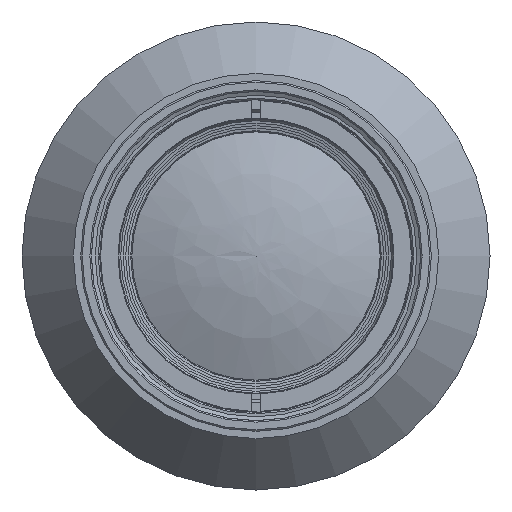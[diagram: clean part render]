
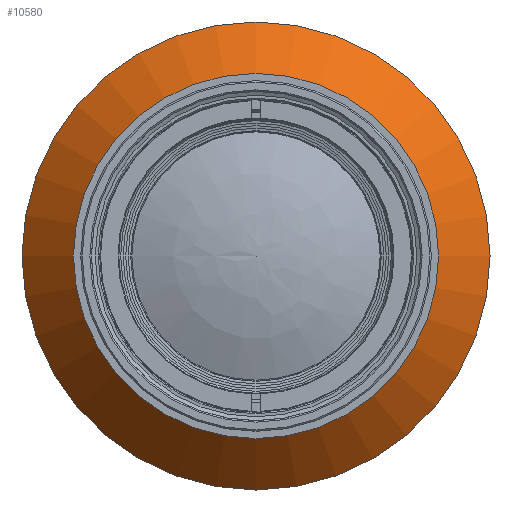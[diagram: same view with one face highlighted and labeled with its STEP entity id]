
A CAD part, left-side view. The second image highlights one B-rep face of the part: STEP entity #10580.
In plain terms, the highlighted conical face has half-angle 42 degrees and reference radius 30.7 mm.
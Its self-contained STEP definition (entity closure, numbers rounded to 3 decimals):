
#9269=CONICAL_SURFACE('',#41852,30.7,42.);
#10580=ADVANCED_FACE('',(#14427,#14428),#9269,.T.);
#14427=FACE_BOUND('',#14586,.T.);
#14428=FACE_BOUND('',#14587,.T.);
#14586=EDGE_LOOP('',(#17242));
#14587=EDGE_LOOP('',(#17243));
#17242=ORIENTED_EDGE('',*,*,#34009,.T.);
#17243=ORIENTED_EDGE('',*,*,#34008,.F.);
#30083=VERTEX_POINT('',#55546);
#30084=VERTEX_POINT('',#55549);
#34008=EDGE_CURVE('',#30083,#30083,#40429,.T.);
#34009=EDGE_CURVE('',#30084,#30084,#40430,.T.);
#40429=CIRCLE('',#41849,30.7);
#40430=CIRCLE('',#41851,23.95);
#41849=AXIS2_PLACEMENT_3D('',#55545,#45853,#45854);
#41851=AXIS2_PLACEMENT_3D('',#55548,#45857,#45858);
#41852=AXIS2_PLACEMENT_3D('',#55550,#45859,#45860);
#45853=DIRECTION('',(1.,0.,0.));
#45854=DIRECTION('',(0.,0.,1.));
#45857=DIRECTION('',(1.,0.,0.));
#45858=DIRECTION('',(0.,0.,1.));
#45859=DIRECTION('',(1.,0.,0.));
#45860=DIRECTION('',(0.,0.,1.));
#55545=CARTESIAN_POINT('',(15.022,0.,0.));
#55546=CARTESIAN_POINT('',(15.022,0.,30.7));
#55548=CARTESIAN_POINT('',(7.525,0.,0.));
#55549=CARTESIAN_POINT('',(7.525,0.,23.95));
#55550=CARTESIAN_POINT('',(15.022,0.,0.));
